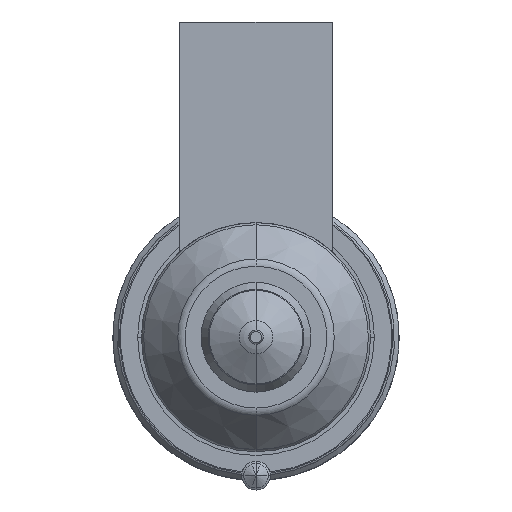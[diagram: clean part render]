
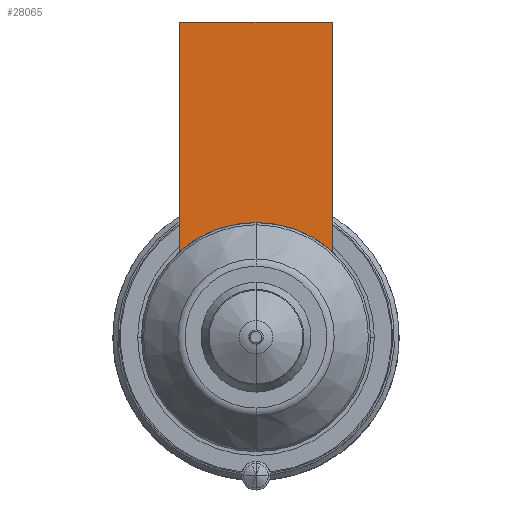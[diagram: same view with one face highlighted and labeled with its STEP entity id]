
A CAD part, front view. The second image highlights one B-rep face of the part: STEP entity #28065.
In plain terms, the highlighted planar face has unit normal (0, -1, 0).
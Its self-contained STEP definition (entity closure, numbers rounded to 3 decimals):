
#27149=DIRECTION('',(0.,0.,-1.));
#27150=VECTOR('',#27149,24.056);
#27151=CARTESIAN_POINT('',(-8.,-56.,33.));
#27152=LINE('',#27151,#27150);
#27189=DIRECTION('',(1.,0.,0.));
#27190=VECTOR('',#27189,16.);
#27191=CARTESIAN_POINT('',(-8.,-56.,33.));
#27192=LINE('',#27191,#27190);
#27196=CARTESIAN_POINT('',(0.,-56.,0.));
#27197=DIRECTION('',(0.,-1.,0.));
#27198=DIRECTION('',(0.667,0.,0.745));
#27199=AXIS2_PLACEMENT_3D('',#27196,#27197,#27198);
#27204=CARTESIAN_POINT('',(0.,-56.,0.));
#27205=DIRECTION('',(0.,-1.,0.));
#27206=DIRECTION('',(0.,0.,1.));
#27207=AXIS2_PLACEMENT_3D('',#27204,#27205,#27206);
#27240=DIRECTION('',(0.,0.,-1.));
#27241=VECTOR('',#27240,24.056);
#27242=CARTESIAN_POINT('',(8.,-56.,33.));
#27243=LINE('',#27242,#27241);
#27901=CARTESIAN_POINT('',(-8.,-56.,33.));
#27902=VERTEX_POINT('',#27901);
#27907=CARTESIAN_POINT('',(8.,-56.,33.));
#27908=VERTEX_POINT('',#27907);
#27911=CARTESIAN_POINT('',(-8.,-56.,8.944));
#27912=VERTEX_POINT('',#27911);
#27915=CARTESIAN_POINT('',(8.,-56.,8.944));
#27916=VERTEX_POINT('',#27915);
#27984=CARTESIAN_POINT('',(0.,-56.,12.));
#27985=VERTEX_POINT('',#27984);
#28050=CARTESIAN_POINT('',(-8.,-56.,33.));
#28051=DIRECTION('',(0.,-1.,0.));
#28052=DIRECTION('',(0.,0.,-1.));
#28053=AXIS2_PLACEMENT_3D('',#28050,#28051,#28052);
#28054=PLANE('',#28053);
#28055=ORIENTED_EDGE('',*,*,#27998,.F.);
#28057=ORIENTED_EDGE('',*,*,#28056,.T.);
#28059=ORIENTED_EDGE('',*,*,#28058,.T.);
#28061=ORIENTED_EDGE('',*,*,#28060,.T.);
#28062=ORIENTED_EDGE('',*,*,#28030,.T.);
#28063=EDGE_LOOP('',(#28055,#28057,#28059,#28061,#28062));
#28064=FACE_OUTER_BOUND('',#28063,.F.);
#28065=ADVANCED_FACE('',(#28064),#28054,.T.);
#27200=CIRCLE('',#27199,12.);
#27208=CIRCLE('',#27207,12.);
#27998=EDGE_CURVE('',#27902,#27912,#27152,.T.);
#28030=EDGE_CURVE('',#27985,#27912,#27208,.T.);
#28056=EDGE_CURVE('',#27902,#27908,#27192,.T.);
#28058=EDGE_CURVE('',#27908,#27916,#27243,.T.);
#28060=EDGE_CURVE('',#27916,#27985,#27200,.T.);
